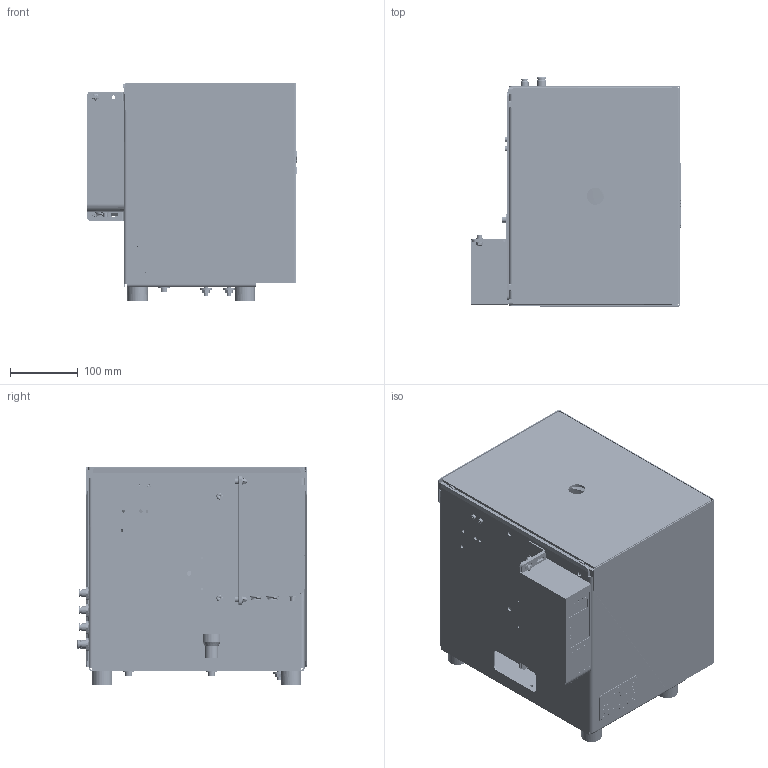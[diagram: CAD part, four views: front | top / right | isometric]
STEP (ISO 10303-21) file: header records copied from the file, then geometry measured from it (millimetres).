
FILE_DESCRIPTION(/* description */ ('© Copyright 2019 – Urheberrechtshinweis Diese CAD-Daten sind urheberrechtlich geschützt. Das Urheberrecht liegt, soweit nicht ausdrücklich anders gekennzeichnet, bei Stöger Automation GmbH. Bitte fragen Sie uns, falls Sie die CAD-Daten vervielfältigen oder','CAx-IF Rec.Pracs.---Representation and Presentation of Product Manufacturing Information (PMI)---4.0---2014-10-13'),/* implementation_level */ '2;1');
FILE_NAME(/* name */ 'H:\00_0 Arbeiten für Marketing\581401\3D_Step_file_ZSE1800 ELK.stp',/* time_stamp */ '2020-05-19T09:58:44+02:00',/* author */ ('Stöger Automation GmbH'),/* organization */ ('Stöger Automation GmbH'),/* preprocessor_version */ 'ST-DEVELOPER v17',/* originating_system */ 'Autodesk Inventor 2018',/* authorisation */ '');
FILE_SCHEMA (('AP242_MANAGED_MODEL_BASED_3D_ENGINEERING_MIM_LF { 1 0 10303 442 1 1 4 }'));
Products named in the file (1): 581401
Bounding box: 308.53 x 337.5 x 321 mm (x, y, z)
Volume: 6262969.8 mm3; surface area: 1637894 mm2
Topology: 8 solids, 99 shells, 7811 faces, 20668 edges, 13530 vertices
Faces by surface type: plane 3908, cylinder 1688, bspline 1271, cone 609, torus 245, sphere 90
Full cylindrical faces by diameter (mm): 0.5 x1, 0.8 x3, 1.2 x2, 1.8 x8, 2 x5, 2.2 x4, 2.459 x4, 2.65 x2, 2.8 x1, 2.9 x2, 3 x16, 3.03 x2, 3.05 x1, 3.1 x1, 3.242 x23, 3.387 x2, 3.48 x2, 3.6 x3, 3.8 x2, 3.99 x4, 4 x50, 4.019 x6, 4.03 x6, 4.134 x12, 4.2 x6, 4.3 x10, 4.4 x3, 4.45 x1, 4.5 x16, 4.917 x22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
Entity records: 279848 total; most frequent: CARTESIAN_POINT 84975, ORIENTED_EDGE 41082, DIRECTION 35609, EDGE_CURVE 20541, VERTEX_POINT 13531, AXIS2_PLACEMENT_3D 12435, LINE 10739, VECTOR 10739
